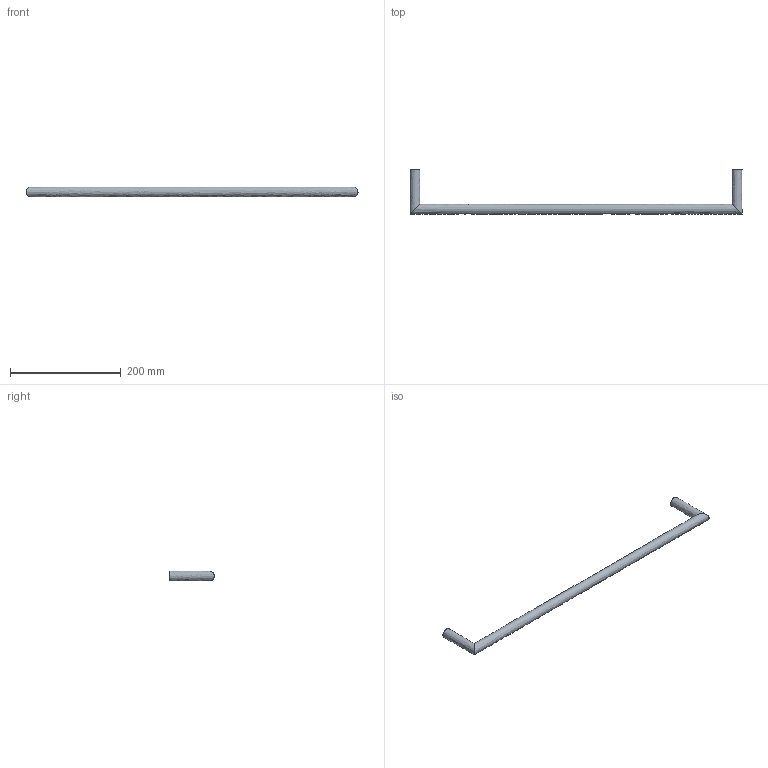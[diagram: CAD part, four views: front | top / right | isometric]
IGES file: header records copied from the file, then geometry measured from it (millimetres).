
Global section: file name: /Users/f/Desktop/I/AM212.igs; native system: Rhinoceros ( Jul 22 2010 ); preprocessor: Trout Lake IGES 012 Jul 22 2010; date: 100723.143958; units: millimetre
Bounding box: 600 x 80 x 18 mm (x, y, z)
Surface area: 41458.1 mm2 (no closed solid volume)
Topology: 0 solids, 0 shells, 5 faces, 179 edges, 178 vertices
Faces by surface type: bspline 5
